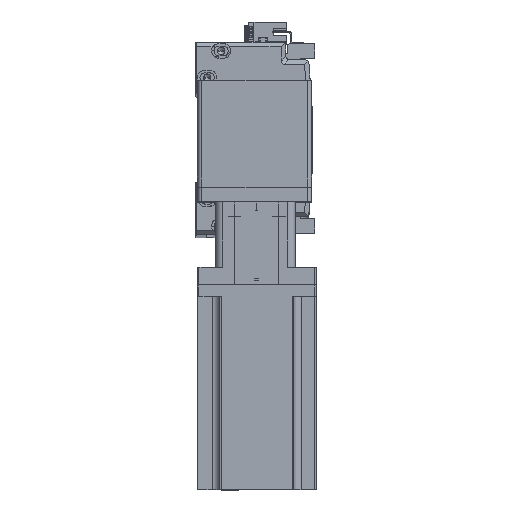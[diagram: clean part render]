
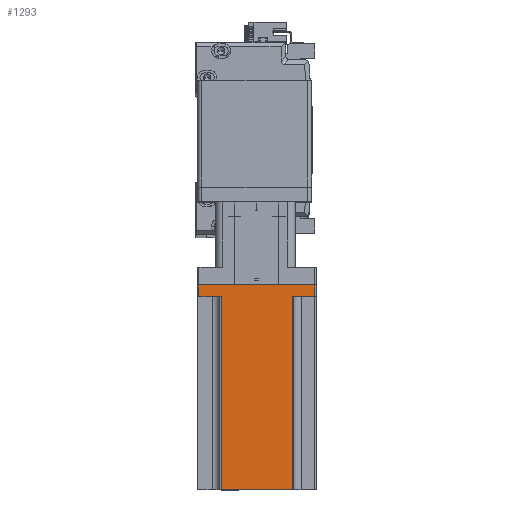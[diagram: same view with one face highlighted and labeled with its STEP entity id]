
A CAD part, top view. The second image highlights one B-rep face of the part: STEP entity #1293.
In plain terms, the highlighted planar face has unit normal (0, 0, 1) as drawn and (0, 1, 0) by its records, which use the part's own axes.
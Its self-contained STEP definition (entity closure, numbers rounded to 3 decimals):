
#1293 = ADVANCED_FACE ( 'NONE', ( #3311 ), #27648, .F. ) ;
#1853 = LINE ( 'NONE', #24618, #32421 ) ;
#1883 = ORIENTED_EDGE ( 'NONE', *, *, #7548, .F. ) ;
#2076 = DIRECTION ( 'NONE',  ( 0., 0., 1. ) ) ;
#2522 = CARTESIAN_POINT ( 'NONE',  ( 40., 40., 0. ) ) ;
#2802 = VECTOR ( 'NONE', #13357, 1000. ) ;
#2996 = ORIENTED_EDGE ( 'NONE', *, *, #44073, .T. ) ;
#3311 = FACE_OUTER_BOUND ( 'NONE', #43494, .T. ) ;
#4724 = VECTOR ( 'NONE', #34693, 1000. ) ;
#4748 = EDGE_CURVE ( 'NONE', #16195, #8652, #43718, .T. ) ;
#5226 = CARTESIAN_POINT ( 'NONE',  ( 39., 40., 0. ) ) ;
#5235 = DIRECTION ( 'NONE',  ( 0., 0., -1. ) ) ;
#7087 = DIRECTION ( 'NONE',  ( -1., 0., 0. ) ) ;
#7152 = VECTOR ( 'NONE', #14567, 1000. ) ;
#7548 = EDGE_CURVE ( 'NONE', #11119, #31716, #37527, .T. ) ;
#7591 = DIRECTION ( 'NONE',  ( 1., 0., 0. ) ) ;
#7922 = DIRECTION ( 'NONE',  ( 0., -1., 0. ) ) ;
#8652 = VERTEX_POINT ( 'NONE', #41281 ) ;
#10094 = VERTEX_POINT ( 'NONE', #13421 ) ;
#11119 = VERTEX_POINT ( 'NONE', #42596 ) ;
#12737 = VECTOR ( 'NONE', #2076, 1000. ) ;
#12784 = VECTOR ( 'NONE', #46006, 1000. ) ;
#13026 = CARTESIAN_POINT ( 'NONE',  ( -39., 40., 0. ) ) ;
#13357 = DIRECTION ( 'NONE',  ( -1., 0., 0. ) ) ;
#13421 = CARTESIAN_POINT ( 'NONE',  ( -24., 40., 138.3 ) ) ;
#13836 = ORIENTED_EDGE ( 'NONE', *, *, #34837, .T. ) ;
#14567 = DIRECTION ( 'NONE',  ( -1., 0., 0. ) ) ;
#15336 = LINE ( 'NONE', #42340, #4724 ) ;
#16195 = VERTEX_POINT ( 'NONE', #22126 ) ;
#16399 = VECTOR ( 'NONE', #7087, 1000. ) ;
#16431 = ORIENTED_EDGE ( 'NONE', *, *, #38749, .T. ) ;
#16966 = EDGE_CURVE ( 'NONE', #38636, #29422, #28348, .T. ) ;
#17900 = CARTESIAN_POINT ( 'NONE',  ( -24., 40., 138.3 ) ) ;
#18328 = CARTESIAN_POINT ( 'NONE',  ( 24., 40., 138.3 ) ) ;
#21501 = VECTOR ( 'NONE', #7591, 1000. ) ;
#21515 = CARTESIAN_POINT ( 'NONE',  ( 40., 40., 138.3 ) ) ;
#22126 = CARTESIAN_POINT ( 'NONE',  ( -39., 40., 8. ) ) ;
#23306 = LINE ( 'NONE', #17900, #12737 ) ;
#24018 = LINE ( 'NONE', #37094, #2802 ) ;
#24618 = CARTESIAN_POINT ( 'NONE',  ( 39., 40., 138.3 ) ) ;
#26990 = CARTESIAN_POINT ( 'NONE',  ( 25., 40., 8. ) ) ;
#27648 = PLANE ( 'NONE',  #50918 ) ;
#28348 = LINE ( 'NONE', #2522, #7152 ) ;
#29422 = VERTEX_POINT ( 'NONE', #13026 ) ;
#30498 = ORIENTED_EDGE ( 'NONE', *, *, #46920, .T. ) ;
#30548 = CARTESIAN_POINT ( 'NONE',  ( 24., 40., 8. ) ) ;
#31498 = EDGE_CURVE ( 'NONE', #36417, #10094, #24018, .T. ) ;
#31716 = VERTEX_POINT ( 'NONE', #30548 ) ;
#32421 = VECTOR ( 'NONE', #5235, 1000. ) ;
#33926 = DIRECTION ( 'NONE',  ( 1., 0., 0. ) ) ;
#34246 = CARTESIAN_POINT ( 'NONE',  ( 24., 40., 138.3 ) ) ;
#34693 = DIRECTION ( 'NONE',  ( 0., 0., 1. ) ) ;
#34837 = EDGE_CURVE ( 'NONE', #36417, #31716, #43055, .T. ) ;
#35011 = ORIENTED_EDGE ( 'NONE', *, *, #4748, .T. ) ;
#36417 = VERTEX_POINT ( 'NONE', #34246 ) ;
#37094 = CARTESIAN_POINT ( 'NONE',  ( 40., 40., 138.3 ) ) ;
#37527 = LINE ( 'NONE', #26990, #16399 ) ;
#38636 = VERTEX_POINT ( 'NONE', #5226 ) ;
#38749 = EDGE_CURVE ( 'NONE', #8652, #10094, #23306, .T. ) ;
#40523 = ORIENTED_EDGE ( 'NONE', *, *, #16966, .T. ) ;
#41281 = CARTESIAN_POINT ( 'NONE',  ( -24., 40., 8. ) ) ;
#42340 = CARTESIAN_POINT ( 'NONE',  ( -39., 40., 138.3 ) ) ;
#42596 = CARTESIAN_POINT ( 'NONE',  ( 39., 40., 8. ) ) ;
#43055 = LINE ( 'NONE', #18328, #12784 ) ;
#43494 = EDGE_LOOP ( 'NONE', ( #35011, #16431, #49442, #13836, #1883, #30498, #40523, #2996 ) ) ;
#43718 = LINE ( 'NONE', #45620, #21501 ) ;
#44073 = EDGE_CURVE ( 'NONE', #29422, #16195, #15336, .T. ) ;
#45620 = CARTESIAN_POINT ( 'NONE',  ( -25., 40., 8. ) ) ;
#46006 = DIRECTION ( 'NONE',  ( 0., 0., -1. ) ) ;
#46920 = EDGE_CURVE ( 'NONE', #11119, #38636, #1853, .T. ) ;
#49442 = ORIENTED_EDGE ( 'NONE', *, *, #31498, .F. ) ;
#50918 = AXIS2_PLACEMENT_3D ( 'NONE', #21515, #7922, #33926 ) ;
